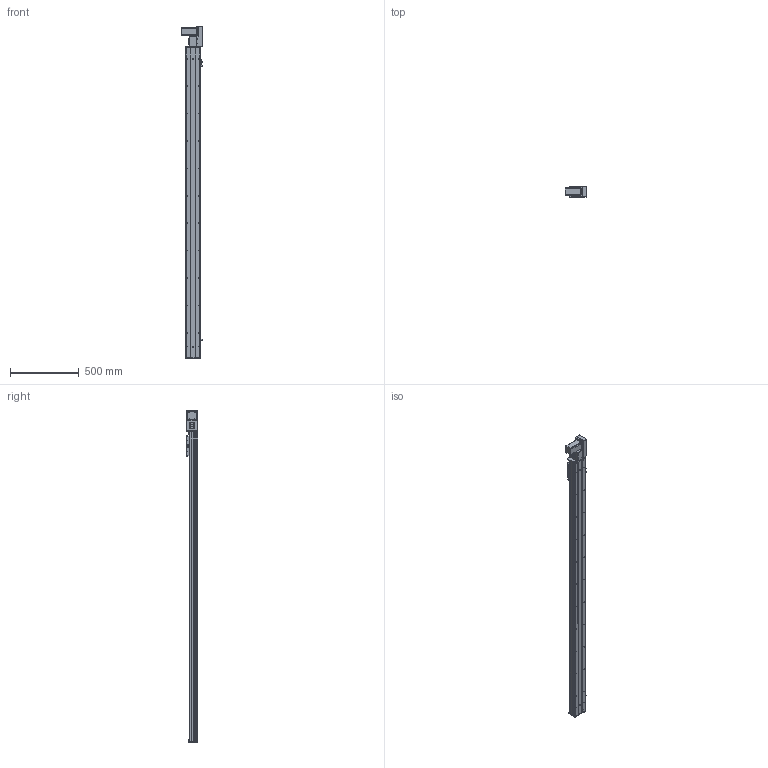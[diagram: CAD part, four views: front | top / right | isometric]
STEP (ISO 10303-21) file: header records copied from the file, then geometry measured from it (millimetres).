
FILE_DESCRIPTION (( 'STEP AP203' ), '1' );
FILE_NAME ('Y10CB-D90-S2000-BR-P400W.STEP', '2020-02-16T02:12:07', ( '微软用户' ), ( '微软中国' ), 'SwSTEP 2.0', 'SolidWorks 2017', '' );
FILE_SCHEMA (( 'CONFIG_CONTROL_DESIGN' ));
Length unit declared in the file: millimetre
Products named in the file (18): Y100-135俋离換覜ん--; 0B-埴倛裔啣; Y10B--々湍喘謫眊--666; 0CB-雄赽釱---; Y俋欶BR----; Y10CB-D90-S2000-BR-P400W; 10CB-詩湍-; Y10CB- 掛极耜裔啣-毀---; Y10B-々湍喘謫眊楊擘啣--; Y10C---詩湍揤啣; Y10B-耜蚾蟀諉啣----; 0Cb-俋欶---; 10CB9-掛极; 0B-萇儂楊擘啣; 10CB-耜裔; san松下电机400不带刹车----; Y135C-陔俋离換覜結え-; 0B-源倛裔啣
Assembly tree (21 placements, depth 2):
  Y10CB-D90-S2000-BR-P400W
    0CB-雄赽釱---
    0Cb-俋欶---
    Y10B-々湍喘謫眊楊擘啣--
    Y10B-耜蚾蟀諉啣----
    0B-萇儂楊擘啣
    san松下电机400不带刹车----
    0B-源倛裔啣
    0B-埴倛裔啣
    Y俋欶BR----
    10CB-詩湍-
    Y10CB- 掛极耜裔啣-毀---  x2
    Y10C---詩湍揤啣  x2
    10CB9-掛极
    10CB-耜裔
    Y135C-陔俋离換覜結え-
    Y100-135俋离換覜ん--  x3
    Y10B--々湍喘謫眊--666
Bounding box: 157.5 x 80.5 x 2422.5 mm (x, y, z)
Volume: 4881697.4 mm3; surface area: 2293052.4 mm2
Topology: 21 solids, 21 shells, 1050 faces, 2843 edges, 1850 vertices
Faces by surface type: cylinder 537, plane 489, cone 24
Entity records: 33404 total; most frequent: CARTESIAN_POINT 6209, DIRECTION 5334, ORIENTED_EDGE 5156, EDGE_CURVE 2578, AXIS2_PLACEMENT_3D 1905, VERTEX_POINT 1676, LINE 1524, VECTOR 1524
